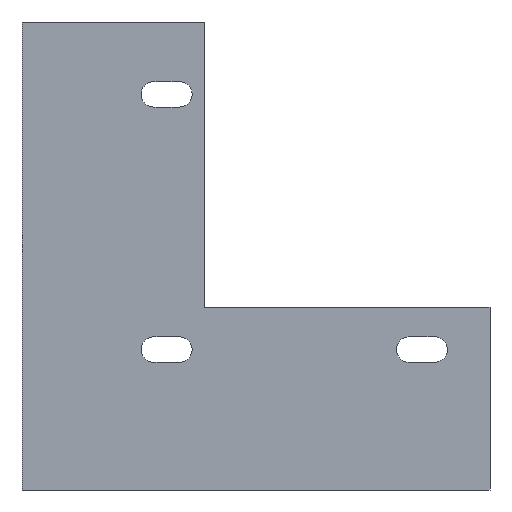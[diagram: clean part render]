
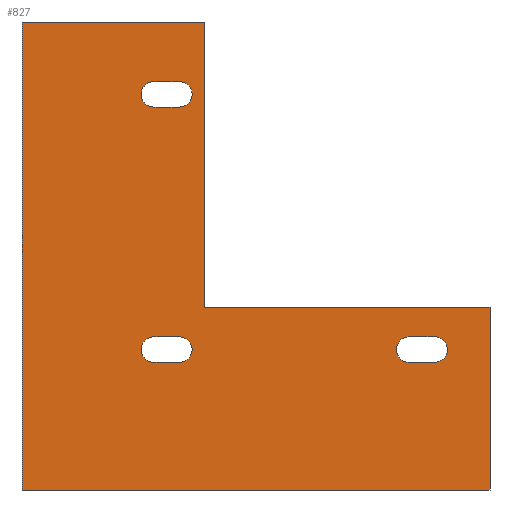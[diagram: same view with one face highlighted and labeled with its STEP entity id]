
A CAD part, front view. The second image highlights one B-rep face of the part: STEP entity #827.
In plain terms, the highlighted planar face has unit normal (0, -1, 0).
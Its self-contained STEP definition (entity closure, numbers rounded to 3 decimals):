
#19=FACE_BOUND('',#125,.T.);
#20=FACE_BOUND('',#126,.T.);
#21=FACE_BOUND('',#127,.T.);
#34=PLANE('',#903);
#71=FACE_OUTER_BOUND('',#124,.T.);
#124=EDGE_LOOP('',(#606,#607,#608,#609,#610,#611));
#125=EDGE_LOOP('',(#612,#613,#614,#615,#616,#617,#618));
#126=EDGE_LOOP('',(#619,#620,#621,#622,#623,#624));
#127=EDGE_LOOP('',(#625,#626,#627,#628,#629,#630));
#185=CIRCLE('',#904,3.);
#186=CIRCLE('',#905,3.);
#187=CIRCLE('',#906,3.);
#188=CIRCLE('',#907,3.);
#189=CIRCLE('',#908,3.);
#190=CIRCLE('',#909,3.);
#191=CIRCLE('',#910,3.);
#215=LINE('',#1265,#300);
#219=LINE('',#1273,#304);
#222=LINE('',#1279,#307);
#223=LINE('',#1281,#308);
#224=LINE('',#1283,#309);
#225=LINE('',#1284,#310);
#226=LINE('',#1287,#311);
#227=LINE('',#1291,#312);
#228=LINE('',#1295,#313);
#229=LINE('',#1297,#314);
#230=LINE('',#1303,#315);
#231=LINE('',#1305,#316);
#232=LINE('',#1309,#317);
#233=LINE('',#1310,#318);
#234=LINE('',#1313,#319);
#235=LINE('',#1315,#320);
#236=LINE('',#1319,#321);
#237=LINE('',#1321,#322);
#300=VECTOR('',#1018,10.);
#304=VECTOR('',#1024,10.);
#307=VECTOR('',#1029,10.);
#308=VECTOR('',#1030,10.);
#309=VECTOR('',#1031,10.);
#310=VECTOR('',#1032,10.);
#311=VECTOR('',#1033,10.);
#312=VECTOR('',#1036,10.);
#313=VECTOR('',#1039,10.);
#314=VECTOR('',#1040,10.);
#315=VECTOR('',#1045,10.);
#316=VECTOR('',#1046,10.);
#317=VECTOR('',#1049,10.);
#318=VECTOR('',#1050,10.);
#319=VECTOR('',#1051,10.);
#320=VECTOR('',#1052,10.);
#321=VECTOR('',#1055,10.);
#322=VECTOR('',#1056,10.);
#393=VERTEX_POINT('',#1263);
#394=VERTEX_POINT('',#1264);
#397=VERTEX_POINT('',#1272);
#399=VERTEX_POINT('',#1278);
#400=VERTEX_POINT('',#1280);
#401=VERTEX_POINT('',#1282);
#402=VERTEX_POINT('',#1285);
#403=VERTEX_POINT('',#1286);
#404=VERTEX_POINT('',#1288);
#405=VERTEX_POINT('',#1290);
#406=VERTEX_POINT('',#1292);
#407=VERTEX_POINT('',#1294);
#408=VERTEX_POINT('',#1296);
#409=VERTEX_POINT('',#1299);
#410=VERTEX_POINT('',#1300);
#411=VERTEX_POINT('',#1302);
#412=VERTEX_POINT('',#1304);
#413=VERTEX_POINT('',#1306);
#414=VERTEX_POINT('',#1308);
#415=VERTEX_POINT('',#1311);
#416=VERTEX_POINT('',#1312);
#417=VERTEX_POINT('',#1314);
#418=VERTEX_POINT('',#1316);
#419=VERTEX_POINT('',#1318);
#420=VERTEX_POINT('',#1320);
#474=EDGE_CURVE('',#393,#394,#215,.T.);
#478=EDGE_CURVE('',#394,#397,#219,.T.);
#481=EDGE_CURVE('',#397,#399,#222,.T.);
#482=EDGE_CURVE('',#399,#400,#223,.T.);
#483=EDGE_CURVE('',#400,#401,#224,.T.);
#484=EDGE_CURVE('',#393,#401,#225,.T.);
#485=EDGE_CURVE('',#402,#403,#226,.T.);
#486=EDGE_CURVE('',#403,#404,#185,.T.);
#487=EDGE_CURVE('',#404,#405,#227,.T.);
#488=EDGE_CURVE('',#405,#406,#186,.T.);
#489=EDGE_CURVE('',#406,#407,#228,.T.);
#490=EDGE_CURVE('',#407,#408,#229,.T.);
#491=EDGE_CURVE('',#408,#402,#187,.T.);
#492=EDGE_CURVE('',#409,#410,#188,.T.);
#493=EDGE_CURVE('',#410,#411,#230,.T.);
#494=EDGE_CURVE('',#411,#412,#231,.T.);
#495=EDGE_CURVE('',#412,#413,#189,.T.);
#496=EDGE_CURVE('',#413,#414,#232,.T.);
#497=EDGE_CURVE('',#414,#409,#233,.T.);
#498=EDGE_CURVE('',#415,#416,#234,.T.);
#499=EDGE_CURVE('',#416,#417,#235,.T.);
#500=EDGE_CURVE('',#417,#418,#190,.T.);
#501=EDGE_CURVE('',#418,#419,#236,.T.);
#502=EDGE_CURVE('',#419,#420,#237,.T.);
#503=EDGE_CURVE('',#420,#415,#191,.T.);
#606=ORIENTED_EDGE('',*,*,#474,.T.);
#607=ORIENTED_EDGE('',*,*,#478,.T.);
#608=ORIENTED_EDGE('',*,*,#481,.T.);
#609=ORIENTED_EDGE('',*,*,#482,.T.);
#610=ORIENTED_EDGE('',*,*,#483,.T.);
#611=ORIENTED_EDGE('',*,*,#484,.F.);
#612=ORIENTED_EDGE('',*,*,#485,.T.);
#613=ORIENTED_EDGE('',*,*,#486,.T.);
#614=ORIENTED_EDGE('',*,*,#487,.T.);
#615=ORIENTED_EDGE('',*,*,#488,.T.);
#616=ORIENTED_EDGE('',*,*,#489,.T.);
#617=ORIENTED_EDGE('',*,*,#490,.T.);
#618=ORIENTED_EDGE('',*,*,#491,.T.);
#619=ORIENTED_EDGE('',*,*,#492,.T.);
#620=ORIENTED_EDGE('',*,*,#493,.T.);
#621=ORIENTED_EDGE('',*,*,#494,.T.);
#622=ORIENTED_EDGE('',*,*,#495,.T.);
#623=ORIENTED_EDGE('',*,*,#496,.T.);
#624=ORIENTED_EDGE('',*,*,#497,.T.);
#625=ORIENTED_EDGE('',*,*,#498,.T.);
#626=ORIENTED_EDGE('',*,*,#499,.T.);
#627=ORIENTED_EDGE('',*,*,#500,.T.);
#628=ORIENTED_EDGE('',*,*,#501,.T.);
#629=ORIENTED_EDGE('',*,*,#502,.T.);
#630=ORIENTED_EDGE('',*,*,#503,.T.);
#827=ADVANCED_FACE('',(#71,#19,#20,#21),#34,.F.);
#903=AXIS2_PLACEMENT_3D('',#1277,#1027,#1028);
#904=AXIS2_PLACEMENT_3D('',#1289,#1034,#1035);
#905=AXIS2_PLACEMENT_3D('',#1293,#1037,#1038);
#906=AXIS2_PLACEMENT_3D('',#1298,#1041,#1042);
#907=AXIS2_PLACEMENT_3D('',#1301,#1043,#1044);
#908=AXIS2_PLACEMENT_3D('',#1307,#1047,#1048);
#909=AXIS2_PLACEMENT_3D('',#1317,#1053,#1054);
#910=AXIS2_PLACEMENT_3D('',#1322,#1057,#1058);
#1018=DIRECTION('',(-1.,0.,0.));
#1024=DIRECTION('',(0.,0.,1.));
#1027=DIRECTION('center_axis',(0.,1.,0.));
#1028=DIRECTION('ref_axis',(1.,0.,0.));
#1029=DIRECTION('',(-1.,0.,0.));
#1030=DIRECTION('',(0.,0.,-1.));
#1031=DIRECTION('',(1.,0.,0.));
#1032=DIRECTION('',(0.,0.,-1.));
#1033=DIRECTION('',(1.,0.,0.));
#1034=DIRECTION('center_axis',(0.,1.,0.));
#1035=DIRECTION('ref_axis',(-1.,0.,0.));
#1036=DIRECTION('',(1.,0.,0.));
#1037=DIRECTION('center_axis',(0.,1.,0.));
#1038=DIRECTION('ref_axis',(-1.,0.,0.));
#1039=DIRECTION('',(-1.,0.,0.));
#1040=DIRECTION('',(-1.,0.,0.));
#1041=DIRECTION('center_axis',(0.,1.,0.));
#1042=DIRECTION('ref_axis',(-1.,0.,0.));
#1043=DIRECTION('center_axis',(0.,1.,0.));
#1044=DIRECTION('ref_axis',(-1.,0.,0.));
#1045=DIRECTION('',(-1.,0.,0.));
#1046=DIRECTION('',(-1.,0.,0.));
#1047=DIRECTION('center_axis',(0.,1.,0.));
#1048=DIRECTION('ref_axis',(-1.,0.,0.));
#1049=DIRECTION('',(1.,0.,0.));
#1050=DIRECTION('',(1.,0.,0.));
#1051=DIRECTION('',(1.,0.,0.));
#1052=DIRECTION('',(1.,0.,0.));
#1053=DIRECTION('center_axis',(0.,1.,0.));
#1054=DIRECTION('ref_axis',(-1.,0.,0.));
#1055=DIRECTION('',(-1.,0.,0.));
#1056=DIRECTION('',(-1.,0.,0.));
#1057=DIRECTION('center_axis',(0.,1.,0.));
#1058=DIRECTION('ref_axis',(-1.,0.,0.));
#1263=CARTESIAN_POINT('',(85.,0.,-67.));
#1264=CARTESIAN_POINT('',(18.,0.,-67.));
#1265=CARTESIAN_POINT('',(24.,0.,-67.));
#1272=CARTESIAN_POINT('',(18.,0.,0.));
#1273=CARTESIAN_POINT('',(18.,0.,-27.5));
#1277=CARTESIAN_POINT('Origin',(30.,0.,-55.));
#1278=CARTESIAN_POINT('',(-25.,0.,0.));
#1279=CARTESIAN_POINT('',(0.,0.,0.));
#1280=CARTESIAN_POINT('',(-25.,0.,-110.));
#1281=CARTESIAN_POINT('',(-25.,0.,0.));
#1282=CARTESIAN_POINT('',(85.,0.,-110.));
#1283=CARTESIAN_POINT('',(-25.,0.,-110.));
#1284=CARTESIAN_POINT('',(85.,0.,0.));
#1285=CARTESIAN_POINT('',(66.004,0.,-74.));
#1286=CARTESIAN_POINT('',(68.,0.,-74.));
#1287=CARTESIAN_POINT('',(49.,0.,-74.));
#1288=CARTESIAN_POINT('',(68.001,0.,-74.));
#1289=CARTESIAN_POINT('Origin',(68.,0.,-77.));
#1290=CARTESIAN_POINT('',(71.895,0.,-74.002));
#1291=CARTESIAN_POINT('',(50.943,0.,-73.992));
#1292=CARTESIAN_POINT('',(72.,0.,-80.));
#1293=CARTESIAN_POINT('Origin',(72.,0.,-77.));
#1294=CARTESIAN_POINT('',(68.,0.,-80.));
#1295=CARTESIAN_POINT('',(49.,0.,-80.));
#1296=CARTESIAN_POINT('',(66.008,0.,-80.));
#1297=CARTESIAN_POINT('',(48.004,0.,-80.));
#1298=CARTESIAN_POINT('Origin',(66.,0.,-77.));
#1299=CARTESIAN_POINT('',(12.,0.,-74.));
#1300=CARTESIAN_POINT('',(12.,0.,-80.));
#1301=CARTESIAN_POINT('Origin',(12.,0.,-77.));
#1302=CARTESIAN_POINT('',(7.965,0.,-80.));
#1303=CARTESIAN_POINT('',(18.982,0.,-80.));
#1304=CARTESIAN_POINT('',(6.,0.,-80.));
#1305=CARTESIAN_POINT('',(18.001,0.,-79.999));
#1306=CARTESIAN_POINT('',(6.,0.,-74.));
#1307=CARTESIAN_POINT('Origin',(6.,0.,-77.));
#1308=CARTESIAN_POINT('',(7.965,0.,-74.));
#1309=CARTESIAN_POINT('',(18.981,0.,-74.001));
#1310=CARTESIAN_POINT('',(21.,0.,-74.));
#1311=CARTESIAN_POINT('',(6.,0.,-14.));
#1312=CARTESIAN_POINT('',(8.016,0.,-14.));
#1313=CARTESIAN_POINT('',(19.008,0.,-14.));
#1314=CARTESIAN_POINT('',(12.,0.,-14.));
#1315=CARTESIAN_POINT('',(21.,0.,-14.));
#1316=CARTESIAN_POINT('',(12.,0.,-20.));
#1317=CARTESIAN_POINT('Origin',(12.,0.,-17.));
#1318=CARTESIAN_POINT('',(8.016,0.,-20.));
#1319=CARTESIAN_POINT('',(19.008,0.,-20.));
#1320=CARTESIAN_POINT('',(6.,0.,-20.));
#1321=CARTESIAN_POINT('',(18.,0.,-20.));
#1322=CARTESIAN_POINT('Origin',(6.,0.,-17.));
